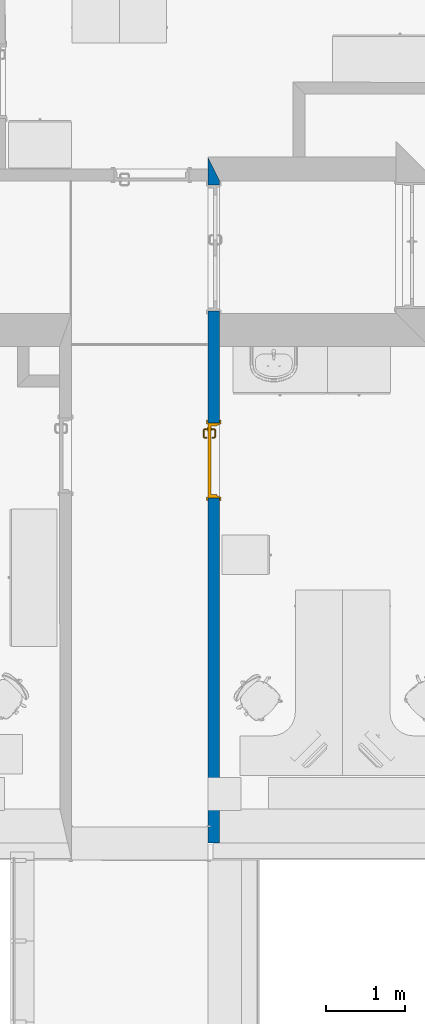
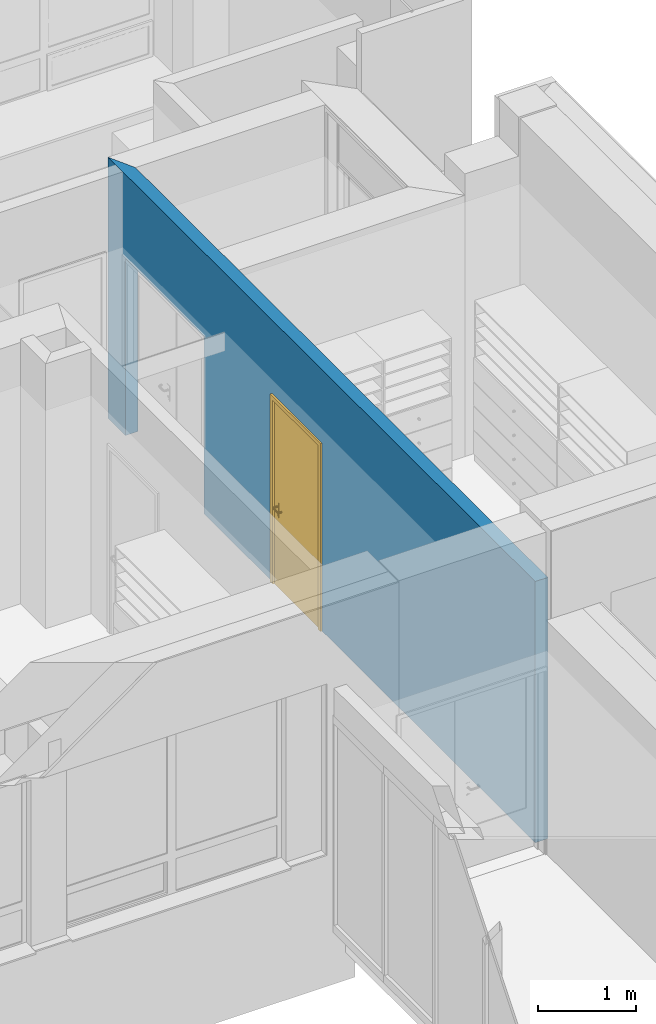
# One storey, part 20 of 194: 1 door, 1 wall, 2 openings.
"""IFC2X3 building model written with IfcOpenShell, lengths in millimetres."""

from ifc_helpers import new_model, entity, si_unit, converted_unit, derived_unit, money_unit, direction, frame, origin_with_axes, origin_2d_with_axis, place, context, subcontext, project, spatial, polyline, rectangle, outline, extrude, open_shell, faceted_brep, surface_model, source, transform, mapped, material, layer, layer_set, layer_usage, type_object, element, fill, save


model = new_model("IFC2X3")

# Units and contexts
model_context = context("Model", 3, precision=1e-05, world=origin_with_axes(), true_north=direction((0.0, 1.0)))
body_context = subcontext(model_context, "Body", "Model", "MODEL_VIEW")
ifc_project = project(units=[si_unit("LENGTHUNIT", "METRE", prefix="MILLI"), si_unit("AREAUNIT", "SQUARE_METRE"), si_unit("VOLUMEUNIT", "CUBIC_METRE"), converted_unit("PLANEANGLEUNIT", "DEGREE", entity("IfcPlaneAngleMeasure", 0.0174532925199), si_unit("PLANEANGLEUNIT", "RADIAN"), dimensions=[0, 0, 0, 0, 0, 0, 0]), si_unit("SOLIDANGLEUNIT", "STERADIAN"), money_unit("EUR"), converted_unit("TIMEUNIT", "Year", entity("IfcTimeMeasure", 31556926.0), si_unit("TIMEUNIT", "SECOND"), dimensions=[0, 0, 1, 0, 0, 0, 0]), si_unit("MASSUNIT", "GRAM", prefix="KILO"), si_unit("THERMODYNAMICTEMPERATUREUNIT", "DEGREE_CELSIUS"), si_unit("LUMINOUSINTENSITYUNIT", "LUMEN"), si_unit("ENERGYUNIT", "JOULE", prefix="MEGA"), derived_unit("THERMALCONDUCTANCEUNIT", [(si_unit("POWERUNIT", "WATT"), 1), (si_unit("LENGTHUNIT", "METRE"), -1), (si_unit("THERMODYNAMICTEMPERATUREUNIT", "KELVIN"), -1)]), derived_unit("SPECIFICHEATCAPACITYUNIT", [(si_unit("ENERGYUNIT", "JOULE"), 1), (si_unit("MASSUNIT", "GRAM", prefix="KILO"), -1), (si_unit("THERMODYNAMICTEMPERATUREUNIT", "KELVIN"), -1)]), derived_unit("MASSDENSITYUNIT", [(si_unit("MASSUNIT", "GRAM", prefix="KILO"), 1), (si_unit("VOLUMEUNIT", "CUBIC_METRE"), -1)])], contexts=[model_context])

# Site, building, storey
site_placement = place(None, origin_with_axes())
site = spatial("IfcSite", under=ifc_project, at=site_placement, Name="Site", CompositionType="ELEMENT")
building_placement = place(site_placement, origin_with_axes())
building = spatial("IfcBuilding", under=site, at=building_placement, Name="Building", CompositionType="ELEMENT")
storey_placement = place(building_placement, frame((0.0, 0.0, 3000.0), z_axis=(0.0, 0.0, 1.0), x_axis=(1.0, 0.0, 0.0)))
storey = spatial("IfcBuildingStorey", under=building, at=storey_placement, Name="2 KORRUS", CompositionType="ELEMENT", Elevation=3000.0)

# Wall, openings, door
ifc_material = material(Name="Kivi -Ol.Olev Konstruktsioon")
ifc_layer = layer(ifc_material, 150.0, ventilated="UNKNOWN")
ifc_layer_set = layer_set([ifc_layer], Name="ol.olev ss 150")
ifc_layer_usage = layer_usage(ifc_layer_set, "AXIS2", "POSITIVE", 0.0)
wall_type = type_object("IfcWallType", Name="SW - 022", PredefinedType="NOTDEFINED")
wall_placement = place(storey_placement, frame((39733.2475145, 67315.4606554, 0.0), z_axis=(0.0, 0.0, 1.0), x_axis=(0.0, -1.0, 0.0)))
wall = element("IfcWallStandardCase", 1, at=wall_placement, inside=storey, type_object=wall_type, material=ifc_layer_usage, Name="ol.olev ss 150", context=body_context, shape_type="SweptSolid", body=[
    extrude(outline(polyline([(-300.000000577, 0.0), (8406.30722164, 0.0), (8406.30722164, 150.0), (-0.0093051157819, 150.0), (-300.000000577, 0.0)])), origin_with_axes(), (0.0, 0.0, 1.0), 3250.0),
])
opening_1_placement = place(wall_placement, frame((3550.18454414, 0.0, 0.0), z_axis=(0.0, 0.0, 1.0), x_axis=(1.0, 0.0, 0.0)))
opening_1 = element("IfcOpeningElement", 2, at=opening_1_placement, cuts=wall, Name="Siseuks * Door 22", context=body_context, shape_type="SweptSolid", body=[
    extrude(rectangle(XDim=950.000000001, YDim=2300.0, at=origin_2d_with_axis()), frame((0.0, 150.0, 1150.0), z_axis=(0.0, 1.0, 0.0), x_axis=(1.0, 0.0, 0.0)), (0.0, 0.0, -1.0), 450.0),
    extrude(rectangle(XDim=1024.0, YDim=2337.0, at=origin_2d_with_axis()), frame((0.0, 150.0, 1168.5), z_axis=(0.0, 1.0, 0.0), x_axis=(1.0, 0.0, 0.0)), (0.0, 0.0, 1.0), 150.0),
    extrude(rectangle(XDim=1024.0, YDim=2337.0, at=origin_2d_with_axis()), frame((0.0, 0.0, 1168.5), z_axis=(0.0, -1.0, 0.0), x_axis=(1.0, 0.0, 0.0)), (0.0, 0.0, 1.0), 150.0),
])
opening_2_placement = place(wall_placement, frame((853.937795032, 0.0, 0.0), z_axis=(0.0, 0.0, 1.0), x_axis=(1.0, 0.0, 0.0)))
element("IfcOpeningElement", 3, at=opening_2_placement, cuts=wall, Name="Siseuks * Double Door 22", context=body_context, shape_type="SweptSolid", body=[
    extrude(rectangle(XDim=1600.0, YDim=2200.0, at=origin_2d_with_axis()), frame((0.0, 150.0, 1100.0), z_axis=(0.0, 1.0, 0.0), x_axis=(-1.0, 0.0, 0.0)), (0.0, 0.0, -1.0), 450.0),
    extrude(rectangle(XDim=1674.0, YDim=2237.0, at=origin_2d_with_axis()), frame((0.0, 150.0, 1118.5), z_axis=(0.0, 1.0, 0.0), x_axis=(-1.0, 0.0, 0.0)), (0.0, 0.0, 1.0), 150.0),
    extrude(rectangle(XDim=1674.0, YDim=2237.0, at=origin_2d_with_axis()), frame((0.0, 0.0, 1118.5), z_axis=(0.0, -1.0, 0.0), x_axis=(-1.0, 0.0, 0.0)), (0.0, 0.0, 1.0), 150.0),
])
door_style = type_object("IfcDoorStyle", Name="SU-A222   950×2\xa0300", ConstructionType="NOTDEFINED", OperationType="SINGLE_SWING_LEFT", ParameterTakesPrecedence=False, Sizeable=False)
shared_shape = source(origin_with_axes(), body_context, "Body", "SurfaceModel", [
    faceted_brep([(475.0, -115.0, 0.0), (475.0, -150.0, 0.0), (450.0, -150.0, 0.0), (450.0, -115.0, 0.0), (475.0, -115.0, 2300.0), (475.0, -150.0, 2300.0), (450.0, -150.0, 2275.0), (450.0, -115.0, 2275.0)], [[[0, 1, 2, 3]], [[4, 5, 1, 0]], [[1, 5, 6, 2]], [[3, 2, 6, 7]], [[0, 3, 7, 4]], [[7, 6, 5, 4]]]),
    faceted_brep([(-475.0, -115.0, 2300.0), (-475.0, -150.0, 2300.0), (-450.0, -150.0, 2275.0), (-450.0, -115.0, 2275.0), (-475.0, -115.0, 0.0), (-475.0, -150.0, 0.0), (-450.0, -150.0, 0.0), (-450.0, -115.0, 0.0)], [[[0, 1, 2, 3]], [[4, 5, 1, 0]], [[1, 5, 6, 2]], [[3, 2, 6, 7]], [[0, 3, 7, 4]], [[7, 6, 5, 4]]]),
    faceted_brep([(450.0, -115.0, 2275.0), (450.0, -150.0, 2275.0), (-450.0, -150.0, 2275.0), (-450.0, -115.0, 2275.0), (475.0, -115.0, 2300.0), (475.0, -150.0, 2300.0), (-475.0, -150.0, 2300.0), (-475.0, -115.0, 2300.0)], [[[0, 1, 2, 3]], [[4, 5, 1, 0]], [[1, 5, 6, 2]], [[3, 2, 6, 7]], [[0, 3, 7, 4]], [[7, 6, 5, 4]]]),
    faceted_brep([(512.0, -169.0, 0.0), (462.0, -169.0, 0.0), (462.0, -150.0, 0.0), (512.0, -150.0, 0.0), (512.0, -169.0, 2337.0), (462.0, -169.0, 2287.0), (462.0, -150.0, 2287.0), (512.0, -150.0, 2337.0)], [[[0, 1, 2, 3]], [[0, 4, 5, 1]], [[1, 5, 6, 2]], [[3, 2, 6, 7]], [[4, 0, 3, 7]], [[5, 4, 7, 6]]]),
    faceted_brep([(-512.0, -169.0, 2337.0), (-462.0, -169.0, 2287.0), (-462.0, -150.0, 2287.0), (-512.0, -150.0, 2337.0), (-512.0, -169.0, 0.0), (-462.0, -169.0, 0.0), (-462.0, -150.0, 0.0), (-512.0, -150.0, 0.0)], [[[0, 1, 2, 3]], [[0, 4, 5, 1]], [[1, 5, 6, 2]], [[3, 2, 6, 7]], [[4, 0, 3, 7]], [[5, 4, 7, 6]]]),
    faceted_brep([(512.0, -169.0, 2337.0), (462.0, -169.0, 2287.0), (462.0, -150.0, 2287.0), (512.0, -150.0, 2337.0), (-512.0, -169.0, 2337.0), (-462.0, -169.0, 2287.0), (-462.0, -150.0, 2287.0), (-512.0, -150.0, 2337.0)], [[[0, 1, 2, 3]], [[0, 4, 5, 1]], [[1, 5, 6, 2]], [[3, 2, 6, 7]], [[4, 0, 3, 7]], [[5, 4, 7, 6]]]),
    faceted_brep([(512.0, 19.0, 0.0), (512.0, 0.0, 0.0), (462.0, 0.0, 0.0), (462.0, 19.0, 0.0), (512.0, 19.0, 2337.0), (512.0, 0.0, 2337.0), (462.0, 0.0, 2287.0), (462.0, 19.0, 2287.0)], [[[0, 1, 2, 3]], [[4, 5, 1, 0]], [[1, 5, 6, 2]], [[3, 2, 6, 7]], [[0, 3, 7, 4]], [[7, 6, 5, 4]]]),
    faceted_brep([(-512.0, 19.0, 2337.0), (-512.0, 0.0, 2337.0), (-462.0, 0.0, 2287.0), (-462.0, 19.0, 2287.0), (-512.0, 19.0, 0.0), (-512.0, 0.0, 0.0), (-462.0, 0.0, 0.0), (-462.0, 19.0, 0.0)], [[[0, 1, 2, 3]], [[4, 5, 1, 0]], [[1, 5, 6, 2]], [[3, 2, 6, 7]], [[0, 3, 7, 4]], [[7, 6, 5, 4]]]),
    faceted_brep([(512.0, 19.0, 2337.0), (512.0, 0.0, 2337.0), (462.0, 0.0, 2287.0), (462.0, 19.0, 2287.0), (-512.0, 19.0, 2337.0), (-512.0, 0.0, 2337.0), (-462.0, 0.0, 2287.0), (-462.0, 19.0, 2287.0)], [[[0, 1, 2, 3]], [[4, 5, 1, 0]], [[1, 5, 6, 2]], [[3, 2, 6, 7]], [[0, 3, 7, 4]], [[7, 6, 5, 4]]]),
    faceted_brep([(435.0, -40.0, 0.0), (435.0, -115.0, 0.0), (435.0, -115.0, 2260.0), (435.0, -40.0, 2260.0), (447.0, -40.0, 0.0), (447.0, 0.0, 0.0), (475.0, 0.0, 0.0), (475.0, -115.0, 0.0), (475.0, -115.0, 2260.0), (447.0, -40.0, 2260.0), (475.0, 0.0, 2260.0), (447.0, 0.0, 2260.0)], [[[0, 1, 2, 3]], [[4, 5, 6, 7, 1, 0]], [[1, 7, 8, 2]], [[9, 3, 2, 8, 10, 11]], [[9, 4, 0, 3]], [[11, 5, 4, 9]], [[11, 10, 6, 5]], [[6, 10, 8, 7]]]),
    faceted_brep([(-447.0, -40.0, 2260.0), (-447.0, 0.0, 2260.0), (-475.0, 0.0, 2260.0), (-475.0, -115.0, 2260.0), (-435.0, -115.0, 2260.0), (-435.0, -40.0, 2260.0), (-447.0, -40.0, 0.0), (-447.0, 0.0, 0.0), (-475.0, 0.0, 0.0), (-475.0, -115.0, 0.0), (-435.0, -115.0, 0.0), (-435.0, -40.0, 0.0)], [[[0, 1, 2, 3, 4, 5]], [[0, 6, 7, 1]], [[7, 8, 2, 1]], [[2, 8, 9, 3]], [[3, 9, 10, 4]], [[5, 4, 10, 11]], [[5, 11, 6, 0]], [[6, 11, 10, 9, 8, 7]]]),
    faceted_brep([(447.0, 0.0, 2272.0), (-447.0, 0.0, 2272.0), (-447.0, 0.0, 2260.0), (-475.0, 0.0, 2260.0), (-475.0, 0.0, 2300.0), (475.0, 0.0, 2300.0), (475.0, 0.0, 2260.0), (447.0, 0.0, 2260.0), (447.0, -40.0, 2272.0), (-447.0, -40.0, 2272.0), (-447.0, -40.0, 2260.0), (-435.0, -40.0, 2260.0), (-435.0, -115.0, 2260.0), (-475.0, -115.0, 2260.0), (-475.0, -115.0, 2300.0), (475.0, -115.0, 2300.0), (475.0, -115.0, 2260.0), (447.0, -40.0, 2260.0), (435.0, -115.0, 2260.0), (435.0, -40.0, 2260.0)], [[[0, 1, 2, 3, 4, 5, 6, 7]], [[0, 8, 9, 1]], [[1, 9, 10, 2]], [[10, 11, 12, 13, 3, 2]], [[4, 3, 13, 14]], [[5, 4, 14, 15]], [[6, 5, 15, 16]], [[17, 7, 6, 16, 18, 19]], [[7, 17, 8, 0]], [[10, 9, 8, 17, 19, 11]], [[19, 18, 12, 11]], [[12, 18, 16, 15, 14, 13]]]),
    faceted_brep([(425.5, -40.0, 1060.0), (368.5, -40.0, 1060.0), (368.5, -43.0, 1060.0), (425.5, -43.0, 1060.0), (425.5, -40.0, 870.0), (368.5, -40.0, 870.0), (368.5, -43.0, 870.0), (425.5, -43.0, 870.0)], [[[0, 1, 2, 3]], [[0, 4, 5, 1]], [[1, 5, 6, 2]], [[3, 2, 6, 7]], [[4, 0, 3, 7]], [[5, 4, 7, 6]]]),
    surface_model("IfcShellBasedSurfaceModel", [(387.0, -53.0, 1000.0), (389.928932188, -53.0, 992.928932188), (389.928932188, -72.303560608, 992.928932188), (387.0, -72.0150859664, 1000.0), (397.0, -53.0, 990.0), (397.0, -73.0, 990.0), (388.816790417, -77.8946748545, 992.928932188), (386.057796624, -76.751862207, 1000.0), (389.928932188, -53.0, 1007.07106781), (389.928932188, -72.303560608, 1007.07106781), (404.071067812, -53.0, 992.928932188), (404.071067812, -73.696439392, 992.928932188), (395.47759065, -80.6536686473, 990.0), (386.044179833, -82.0441798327, 992.928932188), (383.932537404, -79.9325374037, 1000.0), (388.816790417, -77.8946748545, 1007.07106781), (397.0, -53.0, 1010.0), (397.0, -73.0, 1010.0), (407.0, -53.0, 1000.0), (407.0, -73.9849140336, 1000.0), (402.138390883, -83.4126624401, 992.928932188), (391.142135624, -87.1421356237, 990.0), (381.894674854, -84.8167904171, 992.928932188), (380.751862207, -82.0577966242, 1000.0), (386.044179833, -82.0441798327, 1007.07106781), (395.47759065, -80.6536686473, 1010.0), (404.071067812, -53.0, 1007.07106781), (404.071067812, -73.696439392, 1007.07106781), (404.897384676, -84.5554750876, 1000.0), (396.240091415, -92.2400914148, 992.928932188), (384.653668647, -91.4775906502, 990.0), (376.303560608, -85.9289321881, 992.928932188), (376.015085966, -83.0, 1000.0), (381.894674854, -84.8167904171, 1007.07106781), (391.142135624, -87.1421356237, 1010.0), (402.138390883, -83.4126624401, 1007.07106781), (398.351733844, -94.3517338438, 1000.0), (387.41266244, -98.1383908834, 992.928932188), (377.0, -93.0, 990.0), (307.696439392, -85.9289321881, 992.928932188), (307.984914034, -83.0, 1000.0), (376.303560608, -85.9289321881, 1007.07106781), (384.653668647, -91.4775906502, 1010.0), (396.240091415, -92.2400914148, 1007.07106781), (388.555475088, -100.897384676, 1000.0), (377.696439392, -100.071067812, 992.928932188), (307.0, -93.0, 990.0), (302.105325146, -84.8167904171, 992.928932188), (303.248137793, -82.0577966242, 1000.0), (307.696439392, -85.9289321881, 1007.07106781), (377.0, -93.0, 1010.0), (387.41266244, -98.1383908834, 1007.07106781), (377.984914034, -103.0, 1000.0), (306.303560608, -100.071067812, 992.928932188), (299.346331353, -91.4775906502, 990.0), (297.955820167, -82.0441798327, 992.928932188), (300.067462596, -79.9325374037, 1000.0), (302.105325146, -84.8167904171, 1007.07106781), (307.0, -93.0, 1010.0), (377.696439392, -100.071067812, 1007.07106781), (306.015085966, -103.0, 1000.0), (296.58733756, -98.1383908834, 992.928932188), (292.857864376, -87.1421356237, 990.0), (295.183209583, -77.8946748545, 992.928932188), (297.942203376, -76.751862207, 1000.0), (297.955820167, -82.0441798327, 1007.07106781), (299.346331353, -91.4775906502, 1010.0), (306.303560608, -100.071067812, 1007.07106781), (295.444524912, -100.897384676, 1000.0), (287.759908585, -92.2400914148, 992.928932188), (288.52240935, -80.6536686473, 990.0), (294.071067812, -72.303560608, 992.928932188), (297.0, -72.0150859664, 1000.0), (295.183209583, -77.8946748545, 1007.07106781), (292.857864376, -87.1421356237, 1010.0), (296.58733756, -98.1383908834, 1007.07106781), (285.648266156, -94.3517338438, 1000.0), (281.861609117, -83.4126624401, 992.928932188), (287.0, -73.0, 990.0), (294.071067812, -53.0, 992.928932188), (297.0, -53.0, 1000.0), (294.071067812, -72.303560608, 1007.07106781), (288.52240935, -80.6536686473, 1010.0), (287.759908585, -92.2400914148, 1007.07106781), (279.102615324, -84.5554750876, 1000.0), (279.928932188, -73.696439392, 992.928932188), (287.0, -53.0, 990.0), (279.928932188, -53.0, 992.928932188), (277.0, -53.0, 1000.0), (279.928932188, -53.0, 1007.07106781), (287.0, -53.0, 1010.0), (294.071067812, -53.0, 1007.07106781), (287.0, -73.0, 1010.0), (281.861609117, -83.4126624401, 1007.07106781), (277.0, -73.9849140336, 1000.0), (279.928932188, -73.696439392, 1007.07106781)], [open_shell([[[0, 1, 2, 3]], [[1, 4, 5, 2]], [[3, 2, 6, 7]], [[8, 0, 3, 9]], [[4, 10, 11, 5]], [[2, 5, 12, 6]], [[7, 6, 13, 14]], [[9, 3, 7, 15]], [[16, 8, 9, 17]], [[10, 18, 19, 11]], [[5, 11, 20, 12]], [[6, 12, 21, 13]], [[14, 13, 22, 23]], [[15, 7, 14, 24]], [[17, 9, 15, 25]], [[26, 16, 17, 27]], [[18, 26, 27, 19]], [[11, 19, 28, 20]], [[12, 20, 29, 21]], [[13, 21, 30, 22]], [[23, 22, 31, 32]], [[24, 14, 23, 33]], [[25, 15, 24, 34]], [[27, 17, 25, 35]], [[19, 27, 35, 28]], [[20, 28, 36, 29]], [[21, 29, 37, 30]], [[22, 30, 38, 31]], [[32, 31, 39, 40]], [[33, 23, 32, 41]], [[34, 24, 33, 42]], [[35, 25, 34, 43]], [[28, 35, 43, 36]], [[29, 36, 44, 37]], [[30, 37, 45, 38]], [[31, 38, 46, 39]], [[40, 39, 47, 48]], [[41, 32, 40, 49]], [[42, 33, 41, 50]], [[43, 34, 42, 51]], [[36, 43, 51, 44]], [[37, 44, 52, 45]], [[38, 45, 53, 46]], [[39, 46, 54, 47]], [[48, 47, 55, 56]], [[49, 40, 48, 57]], [[50, 41, 49, 58]], [[51, 42, 50, 59]], [[44, 51, 59, 52]], [[45, 52, 60, 53]], [[46, 53, 61, 54]], [[47, 54, 62, 55]], [[56, 55, 63, 64]], [[57, 48, 56, 65]], [[58, 49, 57, 66]], [[59, 50, 58, 67]], [[52, 59, 67, 60]], [[53, 60, 68, 61]], [[54, 61, 69, 62]], [[55, 62, 70, 63]], [[64, 63, 71, 72]], [[65, 56, 64, 73]], [[66, 57, 65, 74]], [[67, 58, 66, 75]], [[60, 67, 75, 68]], [[61, 68, 76, 69]], [[62, 69, 77, 70]], [[63, 70, 78, 71]], [[72, 71, 79, 80]], [[73, 64, 72, 81]], [[74, 65, 73, 82]], [[75, 66, 74, 83]], [[68, 75, 83, 76]], [[69, 76, 84, 77]], [[70, 77, 85, 78]], [[71, 78, 86, 79]], [[80, 79, 86, 87, 88, 89, 90, 91]], [[81, 72, 80, 91]], [[82, 73, 81, 92]], [[83, 74, 82, 93]], [[76, 83, 93, 84]], [[77, 84, 94, 85]], [[78, 85, 87, 86]], [[85, 94, 88, 87]], [[94, 95, 89, 88]], [[95, 92, 90, 89]], [[92, 81, 91, 90]], [[93, 82, 92, 95]], [[84, 93, 95, 94]]])]),
    faceted_brep([(386.607695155, -53.0, 994.0), (385.0, -53.0, 1000.0), (384.0, -43.0, 1000.0), (385.741669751, -43.0, 993.5), (391.0, -53.0, 989.607695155), (397.0, -53.0, 988.0), (403.0, -53.0, 989.607695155), (407.392304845, -53.0, 994.0), (409.0, -53.0, 1000.0), (407.392304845, -53.0, 1006.0), (403.0, -53.0, 1010.39230485), (397.0, -53.0, 1012.0), (391.0, -53.0, 1010.39230485), (386.607695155, -53.0, 1006.0), (385.741669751, -43.0, 1006.5), (390.5, -43.0, 1011.25833025), (397.0, -43.0, 1013.0), (403.5, -43.0, 1011.25833025), (408.258330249, -43.0, 1006.5), (410.0, -43.0, 1000.0), (408.258330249, -43.0, 993.5), (403.5, -43.0, 988.741669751), (397.0, -43.0, 987.0), (390.5, -43.0, 988.741669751)], [[[0, 1, 2, 3]], [[1, 0, 4, 5, 6, 7, 8, 9, 10, 11, 12, 13]], [[1, 13, 14, 2]], [[2, 14, 15, 16, 17, 18, 19, 20, 21, 22, 23, 3]], [[4, 0, 3, 23]], [[5, 4, 23, 22]], [[6, 5, 22, 21]], [[7, 6, 21, 20]], [[8, 7, 20, 19]], [[9, 8, 19, 18]], [[10, 9, 18, 17]], [[11, 10, 17, 16]], [[12, 11, 16, 15]], [[13, 12, 15, 14]]]),
    faceted_brep([(379.679491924, -47.0, 895.0), (377.0, -47.0, 905.0), (375.0, -43.0, 905.0), (377.947441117, -43.0, 894.0), (387.0, -47.0, 887.679491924), (397.0, -47.0, 885.0), (407.0, -47.0, 887.679491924), (414.320508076, -47.0, 895.0), (417.0, -47.0, 905.0), (414.320508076, -47.0, 915.0), (407.0, -47.0, 922.320508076), (397.0, -47.0, 925.0), (387.0, -47.0, 922.320508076), (379.679491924, -47.0, 915.0), (377.947441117, -43.0, 916.0), (386.0, -43.0, 924.052558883), (397.0, -43.0, 927.0), (408.0, -43.0, 924.052558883), (416.052558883, -43.0, 916.0), (419.0, -43.0, 905.0), (416.052558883, -43.0, 894.0), (408.0, -43.0, 885.947441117), (397.0, -43.0, 883.0), (386.0, -43.0, 885.947441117)], [[[0, 1, 2, 3]], [[1, 0, 4, 5, 6, 7, 8, 9, 10, 11, 12, 13]], [[1, 13, 14, 2]], [[2, 14, 15, 16, 17, 18, 19, 20, 21, 22, 23, 3]], [[4, 0, 3, 23]], [[5, 4, 23, 22]], [[6, 5, 22, 21]], [[7, 6, 21, 20]], [[8, 7, 20, 19]], [[9, 8, 19, 18]], [[10, 9, 18, 17]], [[11, 10, 17, 16]], [[12, 11, 16, 15]], [[13, 12, 15, 14]]]),
    faceted_brep([(392.050252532, -49.0, 909.050252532), (390.0, -49.0, 914.0), (389.0, -47.0, 914.0), (391.343145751, -47.0, 908.343145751), (397.0, -49.0, 907.0), (401.949747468, -49.0, 909.050252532), (404.0, -49.0, 914.0), (401.949747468, -49.0, 918.949747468), (397.0, -49.0, 921.0), (392.050252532, -49.0, 918.949747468), (391.343145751, -47.0, 919.656854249), (397.0, -47.0, 922.0), (402.656854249, -47.0, 919.656854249), (405.0, -47.0, 914.0), (402.656854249, -47.0, 908.343145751), (397.0, -47.0, 906.0)], [[[0, 1, 2, 3]], [[1, 0, 4, 5, 6, 7, 8, 9]], [[1, 9, 10, 2]], [[2, 10, 11, 12, 13, 14, 15, 3]], [[4, 0, 3, 15]], [[5, 4, 15, 14]], [[6, 5, 14, 13]], [[7, 6, 13, 12]], [[8, 7, 12, 11]], [[9, 8, 11, 10]]]),
    faceted_brep([(425.5, 0.0, 1060.0), (425.5, 3.0, 1060.0), (368.5, 3.0, 1060.0), (368.5, 0.0, 1060.0), (425.5, 0.0, 870.0), (425.5, 3.0, 870.0), (368.5, 3.0, 870.0), (368.5, 0.0, 870.0)], [[[0, 1, 2, 3]], [[4, 5, 1, 0]], [[1, 5, 6, 2]], [[3, 2, 6, 7]], [[0, 3, 7, 4]], [[7, 6, 5, 4]]]),
    surface_model("IfcShellBasedSurfaceModel", [(387.0, 13.0, 1000.0), (387.0, 32.0150859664, 1000.0), (389.928932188, 32.303560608, 992.928932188), (389.928932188, 13.0, 992.928932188), (389.928932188, 13.0, 1007.07106781), (389.928932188, 32.303560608, 1007.07106781), (386.057796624, 36.751862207, 1000.0), (388.816790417, 37.8946748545, 992.928932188), (397.0, 33.0, 990.0), (397.0, 13.0, 990.0), (397.0, 13.0, 1010.0), (397.0, 33.0, 1010.0), (388.816790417, 37.8946748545, 1007.07106781), (383.932537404, 39.9325374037, 1000.0), (386.044179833, 42.0441798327, 992.928932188), (395.47759065, 40.6536686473, 990.0), (404.071067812, 33.696439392, 992.928932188), (404.071067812, 13.0, 992.928932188), (404.071067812, 13.0, 1007.07106781), (404.071067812, 33.696439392, 1007.07106781), (395.47759065, 40.6536686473, 1010.0), (386.044179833, 42.0441798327, 1007.07106781), (380.751862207, 42.0577966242, 1000.0), (381.894674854, 44.8167904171, 992.928932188), (391.142135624, 47.1421356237, 990.0), (402.138390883, 43.4126624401, 992.928932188), (407.0, 33.9849140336, 1000.0), (407.0, 13.0, 1000.0), (402.138390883, 43.4126624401, 1007.07106781), (391.142135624, 47.1421356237, 1010.0), (381.894674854, 44.8167904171, 1007.07106781), (376.015085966, 43.0, 1000.0), (376.303560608, 45.9289321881, 992.928932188), (384.653668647, 51.4775906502, 990.0), (396.240091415, 52.2400914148, 992.928932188), (404.897384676, 44.5554750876, 1000.0), (396.240091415, 52.2400914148, 1007.07106781), (384.653668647, 51.4775906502, 1010.0), (376.303560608, 45.9289321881, 1007.07106781), (307.984914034, 43.0, 1000.0), (307.696439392, 45.9289321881, 992.928932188), (377.0, 53.0, 990.0), (387.41266244, 58.1383908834, 992.928932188), (398.351733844, 54.3517338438, 1000.0), (387.41266244, 58.1383908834, 1007.07106781), (377.0, 53.0, 1010.0), (307.696439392, 45.9289321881, 1007.07106781), (303.248137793, 42.0577966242, 1000.0), (302.105325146, 44.8167904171, 992.928932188), (307.0, 53.0, 990.0), (377.696439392, 60.0710678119, 992.928932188), (388.555475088, 60.8973846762, 1000.0), (377.696439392, 60.0710678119, 1007.07106781), (307.0, 53.0, 1010.0), (302.105325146, 44.8167904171, 1007.07106781), (300.067462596, 39.9325374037, 1000.0), (297.955820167, 42.0441798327, 992.928932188), (299.346331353, 51.4775906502, 990.0), (306.303560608, 60.0710678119, 992.928932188), (377.984914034, 63.0, 1000.0), (306.303560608, 60.0710678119, 1007.07106781), (299.346331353, 51.4775906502, 1010.0), (297.955820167, 42.0441798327, 1007.07106781), (297.942203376, 36.751862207, 1000.0), (295.183209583, 37.8946748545, 992.928932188), (292.857864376, 47.1421356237, 990.0), (296.58733756, 58.1383908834, 992.928932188), (306.015085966, 63.0, 1000.0), (296.58733756, 58.1383908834, 1007.07106781), (292.857864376, 47.1421356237, 1010.0), (295.183209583, 37.8946748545, 1007.07106781), (297.0, 32.0150859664, 1000.0), (294.071067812, 32.303560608, 992.928932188), (288.52240935, 40.6536686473, 990.0), (287.759908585, 52.2400914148, 992.928932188), (295.444524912, 60.8973846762, 1000.0), (287.759908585, 52.2400914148, 1007.07106781), (288.52240935, 40.6536686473, 1010.0), (294.071067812, 32.303560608, 1007.07106781), (297.0, 13.0, 1000.0), (294.071067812, 13.0, 992.928932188), (287.0, 33.0, 990.0), (281.861609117, 43.4126624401, 992.928932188), (285.648266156, 54.3517338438, 1000.0), (281.861609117, 43.4126624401, 1007.07106781), (287.0, 33.0, 1010.0), (294.071067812, 13.0, 1007.07106781), (287.0, 13.0, 1010.0), (279.928932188, 13.0, 1007.07106781), (277.0, 13.0, 1000.0), (279.928932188, 13.0, 992.928932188), (287.0, 13.0, 990.0), (279.928932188, 33.696439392, 992.928932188), (279.102615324, 44.5554750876, 1000.0), (279.928932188, 33.696439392, 1007.07106781), (277.0, 33.9849140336, 1000.0)], [open_shell([[[0, 1, 2, 3]], [[4, 5, 1, 0]], [[1, 6, 7, 2]], [[3, 2, 8, 9]], [[10, 11, 5, 4]], [[5, 12, 6, 1]], [[6, 13, 14, 7]], [[2, 7, 15, 8]], [[9, 8, 16, 17]], [[18, 19, 11, 10]], [[11, 20, 12, 5]], [[12, 21, 13, 6]], [[13, 22, 23, 14]], [[7, 14, 24, 15]], [[8, 15, 25, 16]], [[17, 16, 26, 27]], [[27, 26, 19, 18]], [[19, 28, 20, 11]], [[20, 29, 21, 12]], [[21, 30, 22, 13]], [[22, 31, 32, 23]], [[14, 23, 33, 24]], [[15, 24, 34, 25]], [[16, 25, 35, 26]], [[26, 35, 28, 19]], [[28, 36, 29, 20]], [[29, 37, 30, 21]], [[30, 38, 31, 22]], [[31, 39, 40, 32]], [[23, 32, 41, 33]], [[24, 33, 42, 34]], [[25, 34, 43, 35]], [[35, 43, 36, 28]], [[36, 44, 37, 29]], [[37, 45, 38, 30]], [[38, 46, 39, 31]], [[39, 47, 48, 40]], [[32, 40, 49, 41]], [[33, 41, 50, 42]], [[34, 42, 51, 43]], [[43, 51, 44, 36]], [[44, 52, 45, 37]], [[45, 53, 46, 38]], [[46, 54, 47, 39]], [[47, 55, 56, 48]], [[40, 48, 57, 49]], [[41, 49, 58, 50]], [[42, 50, 59, 51]], [[51, 59, 52, 44]], [[52, 60, 53, 45]], [[53, 61, 54, 46]], [[54, 62, 55, 47]], [[55, 63, 64, 56]], [[48, 56, 65, 57]], [[49, 57, 66, 58]], [[50, 58, 67, 59]], [[59, 67, 60, 52]], [[60, 68, 61, 53]], [[61, 69, 62, 54]], [[62, 70, 63, 55]], [[63, 71, 72, 64]], [[56, 64, 73, 65]], [[57, 65, 74, 66]], [[58, 66, 75, 67]], [[67, 75, 68, 60]], [[68, 76, 69, 61]], [[69, 77, 70, 62]], [[70, 78, 71, 63]], [[71, 79, 80, 72]], [[64, 72, 81, 73]], [[65, 73, 82, 74]], [[66, 74, 83, 75]], [[75, 83, 76, 68]], [[76, 84, 77, 69]], [[77, 85, 78, 70]], [[78, 86, 79, 71]], [[79, 86, 87, 88, 89, 90, 91, 80]], [[72, 80, 91, 81]], [[73, 81, 92, 82]], [[74, 82, 93, 83]], [[83, 93, 84, 76]], [[84, 94, 85, 77]], [[85, 87, 86, 78]], [[94, 88, 87, 85]], [[95, 89, 88, 94]], [[92, 90, 89, 95]], [[81, 91, 90, 92]], [[82, 92, 95, 93]], [[93, 95, 94, 84]]])]),
    faceted_brep([(386.607695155, 13.0, 994.0), (385.741669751, 3.0, 993.5), (384.0, 3.0, 1000.0), (385.0, 13.0, 1000.0), (391.0, 13.0, 989.607695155), (390.5, 3.0, 988.741669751), (397.0, 3.0, 987.0), (403.5, 3.0, 988.741669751), (408.258330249, 3.0, 993.5), (410.0, 3.0, 1000.0), (408.258330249, 3.0, 1006.5), (403.5, 3.0, 1011.25833025), (397.0, 3.0, 1013.0), (390.5, 3.0, 1011.25833025), (385.741669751, 3.0, 1006.5), (386.607695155, 13.0, 1006.0), (391.0, 13.0, 1010.39230485), (397.0, 13.0, 1012.0), (403.0, 13.0, 1010.39230485), (407.392304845, 13.0, 1006.0), (409.0, 13.0, 1000.0), (407.392304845, 13.0, 994.0), (403.0, 13.0, 989.607695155), (397.0, 13.0, 988.0)], [[[0, 1, 2, 3]], [[4, 5, 1, 0]], [[2, 1, 5, 6, 7, 8, 9, 10, 11, 12, 13, 14]], [[3, 2, 14, 15]], [[3, 15, 16, 17, 18, 19, 20, 21, 22, 23, 4, 0]], [[23, 6, 5, 4]], [[22, 7, 6, 23]], [[21, 8, 7, 22]], [[20, 9, 8, 21]], [[19, 10, 9, 20]], [[18, 11, 10, 19]], [[17, 12, 11, 18]], [[16, 13, 12, 17]], [[15, 14, 13, 16]]]),
    faceted_brep([(379.679491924, 7.0, 895.0), (377.947441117, 3.0, 894.0), (375.0, 3.0, 905.0), (377.0, 7.0, 905.0), (387.0, 7.0, 887.679491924), (386.0, 3.0, 885.947441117), (397.0, 3.0, 883.0), (408.0, 3.0, 885.947441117), (416.052558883, 3.0, 894.0), (419.0, 3.0, 905.0), (416.052558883, 3.0, 916.0), (408.0, 3.0, 924.052558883), (397.0, 3.0, 927.0), (386.0, 3.0, 924.052558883), (377.947441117, 3.0, 916.0), (379.679491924, 7.0, 915.0), (387.0, 7.0, 922.320508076), (397.0, 7.0, 925.0), (407.0, 7.0, 922.320508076), (414.320508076, 7.0, 915.0), (417.0, 7.0, 905.0), (414.320508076, 7.0, 895.0), (407.0, 7.0, 887.679491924), (397.0, 7.0, 885.0)], [[[0, 1, 2, 3]], [[4, 5, 1, 0]], [[2, 1, 5, 6, 7, 8, 9, 10, 11, 12, 13, 14]], [[3, 2, 14, 15]], [[3, 15, 16, 17, 18, 19, 20, 21, 22, 23, 4, 0]], [[23, 6, 5, 4]], [[22, 7, 6, 23]], [[21, 8, 7, 22]], [[20, 9, 8, 21]], [[19, 10, 9, 20]], [[18, 11, 10, 19]], [[17, 12, 11, 18]], [[16, 13, 12, 17]], [[15, 14, 13, 16]]]),
    faceted_brep([(392.050252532, 9.0, 909.050252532), (391.343145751, 7.0, 908.343145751), (389.0, 7.0, 914.0), (390.0, 9.0, 914.0), (397.0, 9.0, 907.0), (397.0, 7.0, 906.0), (402.656854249, 7.0, 908.343145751), (405.0, 7.0, 914.0), (402.656854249, 7.0, 919.656854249), (397.0, 7.0, 922.0), (391.343145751, 7.0, 919.656854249), (392.050252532, 9.0, 918.949747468), (397.0, 9.0, 921.0), (401.949747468, 9.0, 918.949747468), (404.0, 9.0, 914.0), (401.949747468, 9.0, 909.050252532)], [[[0, 1, 2, 3]], [[4, 5, 1, 0]], [[2, 1, 5, 6, 7, 8, 9, 10]], [[3, 2, 10, 11]], [[3, 11, 12, 13, 14, 15, 4, 0]], [[15, 6, 5, 4]], [[14, 7, 6, 15]], [[13, 8, 7, 14]], [[12, 9, 8, 13]], [[11, 10, 9, 12]]]),
    faceted_brep([(-447.0, 0.0, 0.0), (447.0, 0.0, 0.0), (447.0, -40.0, 0.0), (-447.0, -40.0, 0.0), (-447.0, 0.0, 2272.0), (447.0, 0.0, 2272.0), (447.0, -40.0, 2272.0), (-447.0, -40.0, 2272.0)], [[[0, 1, 2, 3]], [[0, 4, 5, 1]], [[1, 5, 6, 2]], [[3, 2, 6, 7]], [[4, 0, 3, 7]], [[5, 4, 7, 6]]]),
])
door_placement = place(opening_1_placement, frame((475.0, 0.0, 0.0), z_axis=(0.0, 0.0, 1.0), x_axis=(-1.0, 0.0, 0.0)))
door = element("IfcDoor", 4, at=door_placement, inside=storey, type_object=door_style, Name="Siseuks * Door 22", OverallHeight=2300.0, OverallWidth=950.0, context=body_context, shape_type="MappedRepresentation", body=[
    mapped(shared_shape, transform((475.0, 0.0, 0.0))),
])
fill(opening_1, door)

save(model, "model.ifc")
